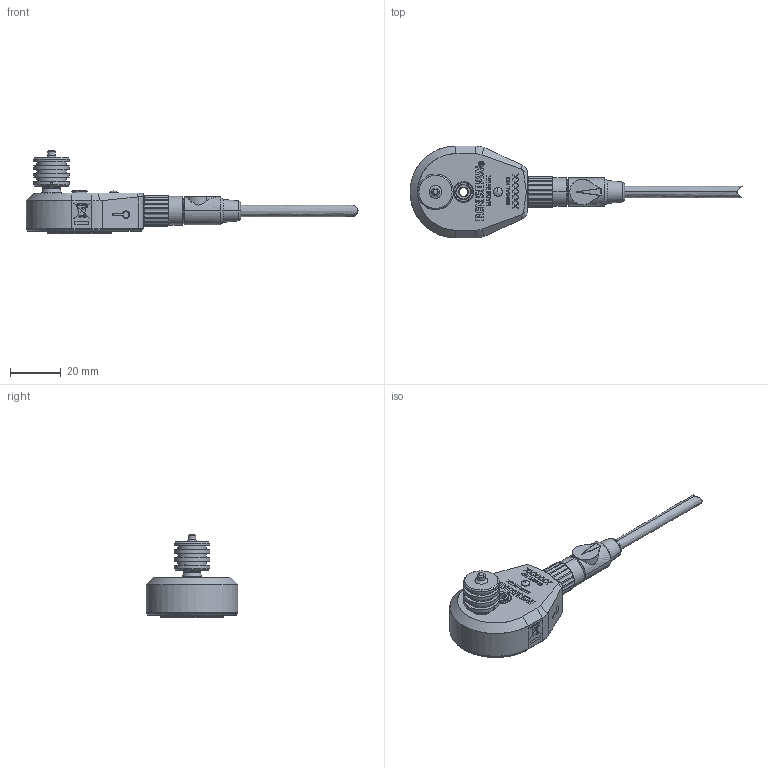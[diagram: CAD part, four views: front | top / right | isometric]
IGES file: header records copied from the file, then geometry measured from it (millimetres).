
Global section: file name: Y:\_LCPD Drawings\13.1 Lightweight Models\9908\AIR SENSOR\LA_9908_0875_A AIR TEMP SENSOR.igs; native system: NX V6.0; preprocessor: SIEMENS UGS NX 6.0; date: 20100127.102057; units: millimetre
Bounding box: 130.25 x 36 x 32.8 mm (x, y, z)
Surface area: 9349.9 mm2 (no closed solid volume)
Topology: 0 solids, 0 shells, 1014 faces, 6141 edges, 6078 vertices
Faces by surface type: bspline 1014
